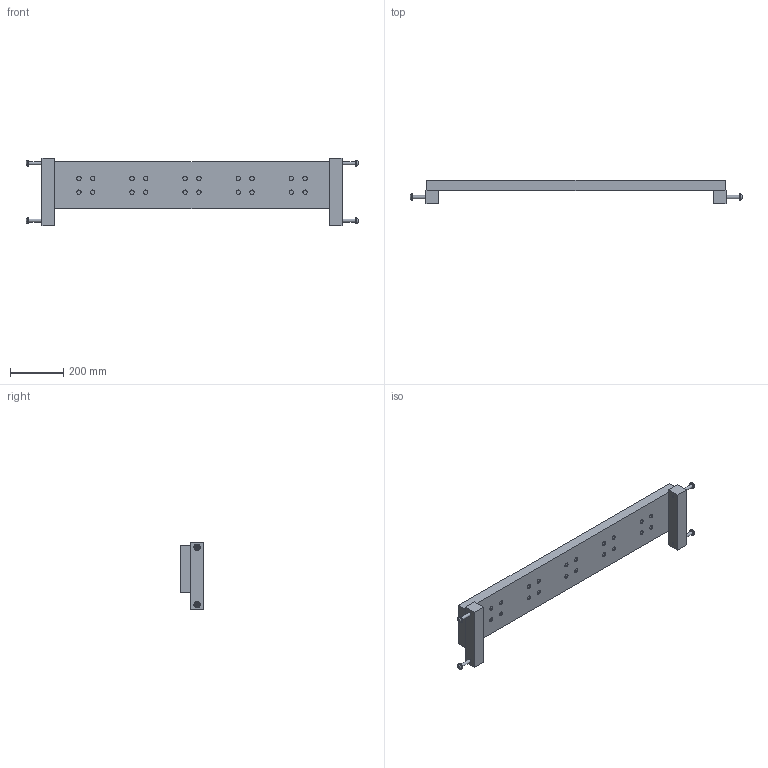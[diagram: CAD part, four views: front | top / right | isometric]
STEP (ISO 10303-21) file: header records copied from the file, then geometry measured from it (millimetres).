
FILE_DESCRIPTION (( 'STEP AP214' ), '1' );
FILE_NAME ('AS-RS_WEBSITE.step', '2025-08-11T09:58:39', ( '' ), ( '' ), 'SwSTEP 2.0', 'SolidWorks 2024', '' );
FILE_SCHEMA (( 'AUTOMOTIVE_DESIGN' ));
Length unit declared in the file: inch
Products named in the file (7): AS-RS_WEBSITE; 91290A626_Alloy Steel Socket Head Screw_WEBSITE_91290A626; 91239A625_Button Head Hex Drive Screw_WEBSITE_91239A625; AS-R-2_WEBSITE_2; AS-R-1_WEBSITE; 91166A290_Zinc-Plated Steel Washer_WEBSITE_91166A290; 91595A640_Dowel Pin_WEBSITE_91595A640
Assembly tree (17 placements, depth 2):
  AS-RS_WEBSITE
    AS-R-1_WEBSITE
    AS-R-2_WEBSITE_2  x2
    91290A626_Alloy Steel Socket Head Screw_WEBSITE_91290A626  x4
    91239A625_Button Head Hex Drive Screw_WEBSITE_91239A625  x4
    91166A290_Zinc-Plated Steel Washer_WEBSITE_91166A290  x4
    91595A640_Dowel Pin_WEBSITE_91595A640  x2
Bounding box: 1250.48 x 87.63 x 254 mm (x, y, z)
Volume: 8774972.6 mm3; surface area: 671941.3 mm2
Topology: 17 solids, 17 shells, 452 faces, 922 edges, 580 vertices
Faces by surface type: plane 238, cylinder 92, cone 56, bspline 34, torus 24, sphere 8
Full cylindrical faces by diameter (mm): 10 x2, 10.046 x2, 10.2 x8, 12 x8, 13 x4, 14 x4, 16.51 x20, 17.4 x4, 18 x4, 19.812 x16, 20 x8, 21 x4, 24 x4
Entity records: 6971 total; most frequent: CARTESIAN_POINT 2200, DIRECTION 927, ORIENTED_EDGE 734, AXIS2_PLACEMENT_3D 375, EDGE_LOOP 375, EDGE_CURVE 367, FACE_OUTER_BOUND 296, VERTEX_POINT 284
